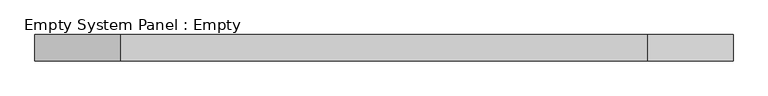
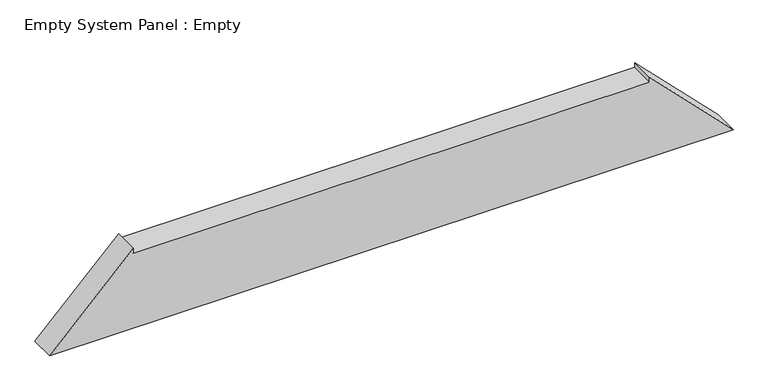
"""IFC4 building model written with IfcOpenShell, lengths in millimetres: plate geometry, Empty System Panel : Empty."""

import ifcopenshell
import ifcopenshell.guid

model = None  # the IFC model being written
_history = None  # IfcOwnerHistory: only IFC2X3 demands one
_inside = {}  # id of a spatial element -> (the spatial element, [elements in it])
_under = {}  # id of a project, library or spatial element -> (it, [spatial elements below it])
_declared = {}  # id of a project -> (the project, [libraries it declares])
_typed = {}  # id of a type object -> (the type object, [elements of that type])
_made_of = {}  # id of a material, layer set ... -> (it, [elements and type objects made of it])


def new_model(schema):
    """Start an empty IFC model of exactly this schema.

    Asked for "IFC4X3", IfcOpenShell would pick the latest addendum, in which some entities
    have other attributes; the version numbers below select the first issue.
    IFC2X3 requires an IfcOwnerHistory on every rooted entity: one is made here for all.
    """
    global model, _history
    if schema == "IFC4X3":
        model = ifcopenshell.file(schema_version=(4, 3, 0, 0))
    else:
        model = ifcopenshell.file(schema=schema)
    _inside.clear()
    _under.clear()
    _declared.clear()
    _typed.clear()
    _made_of.clear()
    _history = None
    if model.schema == "IFC2X3":
        org = make("IfcOrganization", Name="unknown")
        user = make(
            "IfcPersonAndOrganization",
            ThePerson=make("IfcPerson", FamilyName="unknown"),
            TheOrganization=org,
        )
        app = make(
            "IfcApplication",
            ApplicationDeveloper=org,
            Version="unknown",
            ApplicationFullName="unknown",
            ApplicationIdentifier="unknown",
        )
        _history = make(
            "IfcOwnerHistory",
            OwningUser=user,
            OwningApplication=app,
            ChangeAction="ADDED",
            CreationDate=0,
        )
    return model


def make(cls, **values):
    """One entity of the class cls with the attributes given. An attribute that is None is left unset."""
    return model.create_entity(
        cls, **{name: value for name, value in values.items() if value is not None}
    )


def rooted(cls, **values):
    """An entity with a GlobalId (a new one), such as an element, a storey or a relation."""
    return make(cls, GlobalId=ifcopenshell.guid.new(), OwnerHistory=_history, **values)


def si_unit(unit_type, name, prefix=None):
    """IfcSIUnit, for example si_unit("LENGTHUNIT", "METRE", prefix="MILLI")."""
    return make("IfcSIUnit", UnitType=unit_type, Prefix=prefix, Name=name)


def assignment(units):
    """IfcUnitAssignment: the units of a project."""
    return None if units is None else make("IfcUnitAssignment", Units=units)


def point(xyz):
    """IfcCartesianPoint."""
    return None if xyz is None else make("IfcCartesianPoint", Coordinates=xyz)


def direction(xyz):
    """IfcDirection."""
    return None if xyz is None else make("IfcDirection", DirectionRatios=xyz)


def frame(location, z_axis=None, x_axis=None):
    """IfcAxis2Placement3D, a coordinate frame: its origin and axes. An axis left out is left unset."""
    return make(
        "IfcAxis2Placement3D",
        Location=point(location),
        Axis=direction(z_axis),
        RefDirection=direction(x_axis),
    )


def origin():
    """The frame at (0, 0, 0) with its axes left unset."""
    return frame((0.0, 0.0, 0.0))


def place(relative_to, where):
    """IfcLocalPlacement: puts the frame where relative to a parent placement (None: the world)."""
    return make(
        "IfcLocalPlacement", PlacementRelTo=relative_to, RelativePlacement=where
    )


def context(
    kind, dimensions, precision=None, world=None, true_north=None, identifier=None
):
    """IfcGeometricRepresentationContext, for example the 3D "Model" context."""
    return make(
        "IfcGeometricRepresentationContext",
        ContextIdentifier=identifier,
        ContextType=kind,
        CoordinateSpaceDimension=dimensions,
        Precision=precision,
        WorldCoordinateSystem=world,
        TrueNorth=true_north,
    )


def project(units=None, contexts=None):
    """IfcProject with its units and contexts."""
    return rooted(
        "IfcProject",
        Name="project",
        RepresentationContexts=contexts,
        UnitsInContext=assignment(units),
    )


def spatial(cls, under=None, at=None, **own):
    """A site, building, storey or space (cls), placed at a placement, below another one or the project."""
    s = rooted(cls, ObjectPlacement=at, **own)
    if under is not None:
        _under.setdefault(under.id(), (under, []))[1].append(s)
    return s


def polyline(points):
    """IfcPolyline through the points."""
    return make("IfcPolyline", Points=[point(p) for p in points])


def outline(outer, holes=None, kind="AREA"):
    """IfcArbitraryClosedProfileDef: a profile drawn as a closed curve; with holes, ...WithVoids."""
    if holes is None:
        return make("IfcArbitraryClosedProfileDef", ProfileType=kind, OuterCurve=outer)
    return make(
        "IfcArbitraryProfileDefWithVoids",
        ProfileType=kind,
        OuterCurve=outer,
        InnerCurves=holes,
    )


def extrude(swept, where, along, depth):
    """IfcExtrudedAreaSolid: the profile swept, set in the frame where, extruded along a direction by depth."""
    return make(
        "IfcExtrudedAreaSolid",
        SweptArea=swept,
        Position=where,
        ExtrudedDirection=direction(along),
        Depth=depth,
    )


def shape(context_of_items, identifier, shape_type, items):
    """IfcShapeRepresentation: the items that make up one representation, for example the "Body"."""
    return make(
        "IfcShapeRepresentation",
        ContextOfItems=context_of_items,
        RepresentationIdentifier=identifier,
        RepresentationType=shape_type,
        Items=items,
    )


def source(mapping_origin, context_of_items, identifier, shape_type, items):
    """IfcRepresentationMap: a shape defined once, which mapped items show again and again."""
    return make(
        "IfcRepresentationMap",
        MappingOrigin=mapping_origin,
        MappedRepresentation=shape(context_of_items, identifier, shape_type, items),
    )


def transform(
    local_origin,
    x_axis=None,
    y_axis=None,
    z_axis=None,
    scale=None,
    scale2=None,
    scale3=None,
    uniform=True,
):
    """IfcCartesianTransformationOperator3D, or its non-uniform kind. x_axis, y_axis, z_axis: its Axis1, 2, 3."""
    if uniform:
        return make(
            "IfcCartesianTransformationOperator3D",
            Axis1=direction(x_axis),
            Axis2=direction(y_axis),
            LocalOrigin=point(local_origin),
            Scale=scale,
            Axis3=direction(z_axis),
        )
    return make(
        "IfcCartesianTransformationOperator3DnonUniform",
        Axis1=direction(x_axis),
        Axis2=direction(y_axis),
        LocalOrigin=point(local_origin),
        Scale=scale,
        Axis3=direction(z_axis),
        Scale2=scale2,
        Scale3=scale3,
    )


def mapped(mapping_source, mapping_target):
    """IfcMappedItem: shows the shape of a source again, moved by a transform."""
    return make(
        "IfcMappedItem", MappingSource=mapping_source, MappingTarget=mapping_target
    )


def made_of(thing, what):
    """Note that an element or type object is made of a material, layer set ...; save() writes the relation."""
    if what is not None:
        _made_of.setdefault(what.id(), (what, []))[1].append(thing)
    return thing


def element(
    cls,
    number,
    at=None,
    inside=None,
    cuts=None,
    type_object=None,
    material=None,
    context=None,
    identifier="Body",
    shape_type=None,
    held_by="IfcProductDefinitionShape",
    body=None,
    shapes=None,
    **own,
):
    """One element of the class cls, such as IfcWall. Its Tag is "e" and its number.

    at: its placement. inside: the storey or other place that contains it. cuts: it is an
    opening in that element (IfcRelVoidsElement). A single representation is given by context,
    identifier, shape_type and body (its items); several are given by shapes. held_by: the class
    of the entity that holds the representations. save() writes the other relations.
    """
    e = rooted(cls, Tag="e%d" % number, ObjectPlacement=at, **own)
    if body is not None:
        shapes = [shape(context, identifier, shape_type, body)]
    if shapes is not None:
        e.Representation = make(held_by, Representations=shapes)
    if inside is not None:
        _inside.setdefault(inside.id(), (inside, []))[1].append(e)
    if cuts is not None:
        rooted(
            "IfcRelVoidsElement", RelatingBuildingElement=cuts, RelatedOpeningElement=e
        )
    if type_object is not None:
        _typed.setdefault(type_object.id(), (type_object, []))[1].append(e)
    return made_of(e, material)


def aggregate(whole, parts):
    """IfcRelAggregates: a whole, such as a stair, and the parts it consists of."""
    return rooted("IfcRelAggregates", RelatingObject=whole, RelatedObjects=parts)


def save(model, path):
    """Write the relations noted so far, then the file.

    IfcRelAggregates (storeys below a building ...), IfcRelContainedInSpatialStructure (elements
    in a storey), IfcRelDefinesByType, IfcRelAssociatesMaterial and IfcRelDeclares: one each for
    every whole, place, type object, material and project.
    """
    for whole, parts in _under.values():
        aggregate(whole, parts)
    for where, things in _inside.values():
        rooted(
            "IfcRelContainedInSpatialStructure",
            RelatedElements=things,
            RelatingStructure=where,
        )
    for kind, things in _typed.values():
        rooted("IfcRelDefinesByType", RelatedObjects=things, RelatingType=kind)
    for what, things in _made_of.values():
        rooted("IfcRelAssociatesMaterial", RelatedObjects=things, RelatingMaterial=what)
    for by, libraries in _declared.values():
        rooted("IfcRelDeclares", RelatingContext=by, RelatedDefinitions=libraries)
    model.write(path)


def empty_system_panel_empty_be1a8f4e(model_context):
    return source(origin(), model_context, "Body", "SweptSolid", [
        extrude(outline(polyline([(0.0, -1333.8421596), (0.0, 1333.8421596), (330.0, 1007.4931631), (310.0, 1007.4931631), (310.0, -1007.4931631), (330.0, -1007.4931631), (0.0, -1333.8421596)])), frame((0.0, -50.0, 0.0), z_axis=(0.0, 1.0, 0.0), x_axis=(0.0, 0.0, 1.0)), (0.0, 0.0, 1.0), 100.0),
    ])


if __name__ == "__main__":
    model = new_model("IFC4")
    model_context = context("Model", 3, world=origin())
    ifc_project = project(units=[si_unit("LENGTHUNIT", "METRE", prefix="MILLI")], contexts=[model_context])
    site = spatial("IfcSite", under=ifc_project)
    building = spatial("IfcBuilding", under=site)
    placement = place(None, origin())
    empty_system_panel_empty_shape = empty_system_panel_empty_be1a8f4e(model_context)
    element("IfcPlate", 1, ObjectType="Empty System Panel : Empty", at=placement, inside=building, context=model_context, shape_type="MappedRepresentation", body=[
        mapped(empty_system_panel_empty_shape, transform((0.0, 0.0, 0.0), x_axis=(1.0, 0.0, 0.0), y_axis=(0.0, 1.0, 0.0), z_axis=(0.0, 0.0, 1.0))),
    ])
    save(model, "model.ifc")
